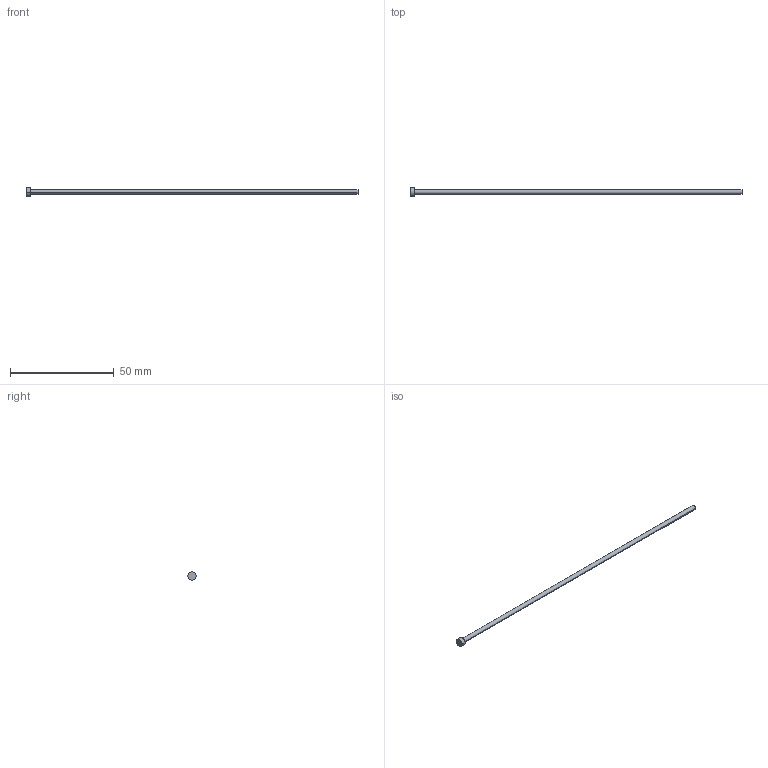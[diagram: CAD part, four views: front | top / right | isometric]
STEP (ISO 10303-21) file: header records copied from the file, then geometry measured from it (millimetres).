
FILE_DESCRIPTION (( 'STEP AP214' ), '1' );
FILE_NAME ('A-2,2x160.STEP', '2020-05-28T16:52:59', ( 'August' ), ( '' ), 'SwSTEP 2.0', 'SolidWorks 2018', '' );
FILE_SCHEMA (( 'AUTOMOTIVE_DESIGN' ));
Length unit declared in the file: millimetre
Products named in the file (1): A-2,2x160
Bounding box: 160 x 4 x 4 mm (x, y, z)
Volume: 625.8 mm3; surface area: 1141.7 mm2
Topology: 1 solids, 1 shells, 9 faces, 16 edges, 10 vertices
Faces by surface type: cylinder 4, plane 3, torus 2
Entity records: 260 total; most frequent: DIRECTION 48, CARTESIAN_POINT 36, ORIENTED_EDGE 32, AXIS2_PLACEMENT_3D 22, EDGE_CURVE 16, CIRCLE 12, VERTEX_POINT 10, EDGE_LOOP 10
